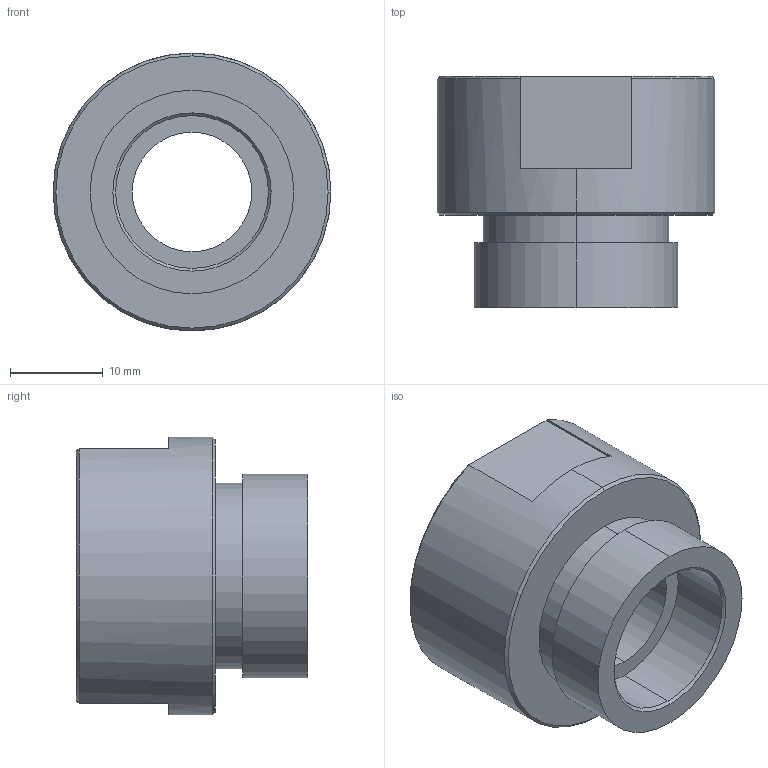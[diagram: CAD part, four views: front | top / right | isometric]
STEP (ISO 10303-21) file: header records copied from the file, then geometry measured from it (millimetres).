
FILE_DESCRIPTION (( 'STEP AP203' ), '1' );
FILE_NAME ('125MO-12.9.STEP', '2022-04-13T07:30:31', ( '' ), ( '' ), 'SwSTEP 2.0', 'SolidWorks 2015', '' );
FILE_SCHEMA (( 'CONFIG_CONTROL_DESIGN' ));
Length unit declared in the file: millimetre
Products named in the file (2): 125MO-12.9
Bounding box: 30 x 25 x 30 mm (x, y, z)
Volume: 10085.7 mm3; surface area: 4427.4 mm2
Topology: 1 solids, 1 shells, 29 faces, 68 edges, 44 vertices
Faces by surface type: plane 13, cylinder 10, cone 6
Entity records: 1007 total; most frequent: CARTESIAN_POINT 167, DIRECTION 152, ORIENTED_EDGE 136, EDGE_CURVE 68, AXIS2_PLACEMENT_3D 61, VERTEX_POINT 44, EDGE_LOOP 34, VECTOR 30
